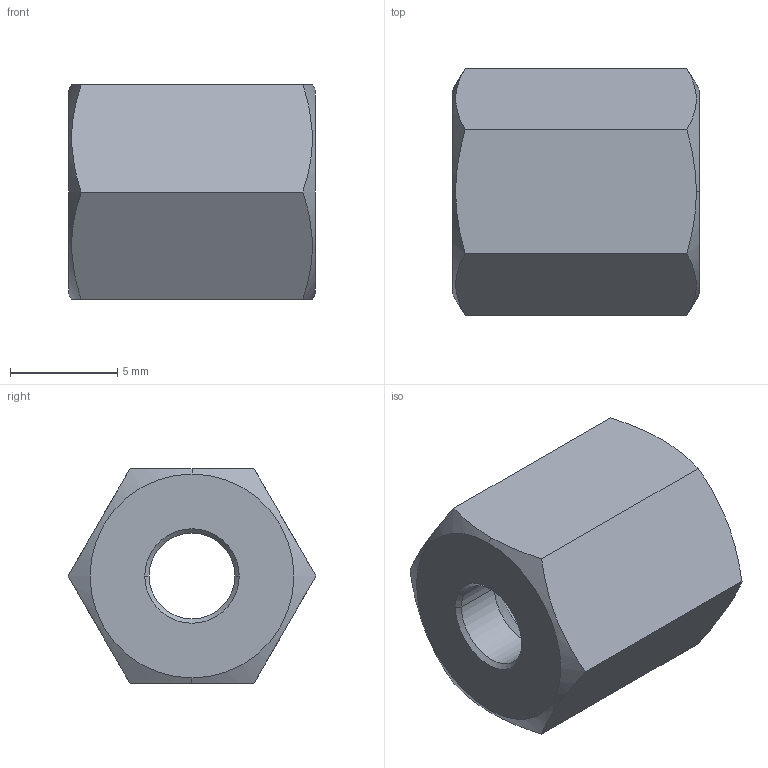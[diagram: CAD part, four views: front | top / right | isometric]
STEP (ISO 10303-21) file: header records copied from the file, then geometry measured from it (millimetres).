
FILE_DESCRIPTION((''),'2;1');
FILE_NAME('100201.stp','2006-03-06T15:12:09',('Dario Falcomer'),('CAST S.p.A.'),'AutoCAD STEP 2000i','AutoCAD 2000i',', , ');
FILE_SCHEMA(('CONFIG_CONTROL_DESIGN'));
Length unit declared in the file: millimetre
Products named in the file (2): 100201.0; CHIAVE_DADI#0
Assembly tree (1 placements, depth 2):
  100201.0
    CHIAVE_DADI#0
Bounding box: 11.5 x 11.55 x 10 mm (x, y, z)
Volume: 615.3 mm3; surface area: 728.3 mm2
Topology: 1 solids, 1 shells, 22 faces, 52 edges, 32 vertices
Faces by surface type: cone 10, plane 8, cylinder 4
Entity records: 725 total; most frequent: CARTESIAN_POINT 140, ORIENTED_EDGE 104, DIRECTION 100, EDGE_CURVE 52, AXIS2_PLACEMENT_3D 40, VERTEX_POINT 32, EDGE_LOOP 24, FACE_OUTER_BOUND 22
